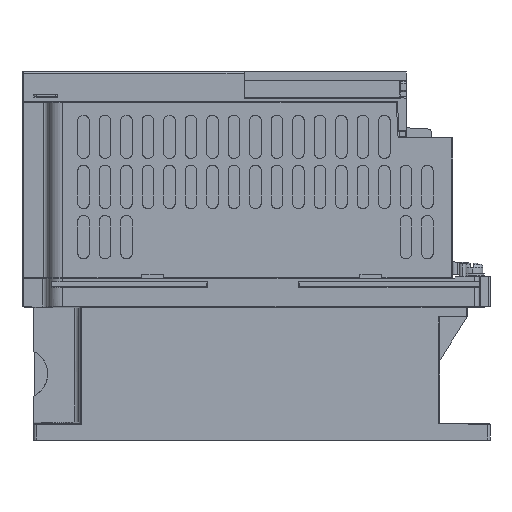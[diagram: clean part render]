
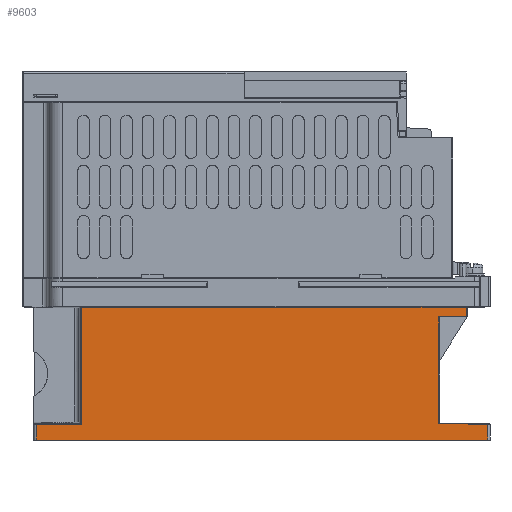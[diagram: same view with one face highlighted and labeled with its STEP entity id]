
A CAD part, left-side view. The second image highlights one B-rep face of the part: STEP entity #9603.
In plain terms, the highlighted planar face has unit normal (-1, 0, 0).
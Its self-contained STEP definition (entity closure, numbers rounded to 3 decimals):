
#5853=PLANE('',#83312);
#9603=ADVANCED_FACE('',(#13789),#5853,.F.);
#13789=FACE_OUTER_BOUND('',#18189,.T.);
#18189=EDGE_LOOP('',(#51324,#51325,#51326,#51327,#51328,#51329,#51330,#51331,
#51332,#51333,#51334));
#25158=LINE('',#120769,#33916);
#25166=LINE('',#120817,#33924);
#25169=LINE('',#120836,#33927);
#25171=LINE('',#120850,#33929);
#25194=LINE('',#120898,#33952);
#25268=LINE('',#122213,#34026);
#25269=LINE('',#122221,#34027);
#25273=LINE('',#122239,#34031);
#25276=LINE('',#122376,#34034);
#25460=LINE('',#123901,#34218);
#25471=LINE('',#123963,#34229);
#33916=VECTOR('',#97524,1.);
#33924=VECTOR('',#97542,1.);
#33927=VECTOR('',#97549,1.);
#33929=VECTOR('',#97553,1.);
#33952=VECTOR('',#97590,1.);
#34026=VECTOR('',#97902,1.);
#34027=VECTOR('',#97913,1.);
#34031=VECTOR('',#97933,1.);
#34034=VECTOR('',#97940,1.);
#34218=VECTOR('',#98336,1.);
#34229=VECTOR('',#98373,1.);
#51324=ORIENTED_EDGE('',*,*,#74323,.T.);
#51325=ORIENTED_EDGE('',*,*,#74351,.T.);
#51326=ORIENTED_EDGE('',*,*,#74327,.T.);
#51327=ORIENTED_EDGE('',*,*,#74806,.T.);
#51328=ORIENTED_EDGE('',*,*,#74827,.F.);
#51329=ORIENTED_EDGE('',*,*,#74305,.T.);
#51330=ORIENTED_EDGE('',*,*,#74534,.F.);
#51331=ORIENTED_EDGE('',*,*,#74528,.T.);
#51332=ORIENTED_EDGE('',*,*,#74519,.F.);
#51333=ORIENTED_EDGE('',*,*,#74515,.F.);
#51334=ORIENTED_EDGE('',*,*,#74317,.F.);
#64778=VERTEX_POINT('',#120746);
#64780=VERTEX_POINT('',#120768);
#64790=VERTEX_POINT('',#120815);
#64792=VERTEX_POINT('',#120818);
#64797=VERTEX_POINT('',#120835);
#64800=VERTEX_POINT('',#120849);
#64801=VERTEX_POINT('',#120851);
#64903=VERTEX_POINT('',#122214);
#64905=VERTEX_POINT('',#122222);
#64911=VERTEX_POINT('',#122240);
#65103=VERTEX_POINT('',#123900);
#74305=EDGE_CURVE('',#64778,#64780,#25158,.T.);
#74317=EDGE_CURVE('',#64790,#64792,#25166,.T.);
#74323=EDGE_CURVE('',#64790,#64797,#25169,.T.);
#74327=EDGE_CURVE('',#64801,#64800,#25171,.T.);
#74351=EDGE_CURVE('',#64797,#64801,#25194,.T.);
#74515=EDGE_CURVE('',#64792,#64903,#25268,.T.);
#74519=EDGE_CURVE('',#64903,#64905,#25269,.T.);
#74528=EDGE_CURVE('',#64911,#64905,#25273,.T.);
#74534=EDGE_CURVE('',#64911,#64780,#25276,.T.);
#74806=EDGE_CURVE('',#64800,#65103,#25460,.T.);
#74827=EDGE_CURVE('',#64778,#65103,#25471,.T.);
#83312=AXIS2_PLACEMENT_3D('',#124746,#98625,#98626);
#97524=DIRECTION('',(0.,0.,-1.));
#97542=DIRECTION('',(0.,-1.,-0.017));
#97549=DIRECTION('',(0.,0.,1.));
#97553=DIRECTION('',(0.,0.,1.));
#97590=DIRECTION('',(0.,-1.,0.017));
#97902=DIRECTION('',(0.,0.,-1.));
#97913=DIRECTION('',(0.,1.,0.));
#97933=DIRECTION('',(0.,0.,-1.));
#97940=DIRECTION('',(0.,-1.,0.));
#98336=DIRECTION('',(0.,-1.,0.017));
#98373=DIRECTION('',(0.,-1.,0.));
#98625=DIRECTION('',(1.,0.,0.));
#98626=DIRECTION('',(0.,-1.,0.));
#120746=CARTESIAN_POINT('',(5.,171.026,55.913));
#120768=CARTESIAN_POINT('',(5.,171.026,6.81));
#120769=CARTESIAN_POINT('',(5.,171.026,55.913));
#120815=CARTESIAN_POINT('',(5.,21.5,7.175));
#120817=CARTESIAN_POINT('',(5.,21.5,7.175));
#120818=CARTESIAN_POINT('',(5.,1.,6.817));
#120835=CARTESIAN_POINT('',(5.,21.5,51.791));
#120836=CARTESIAN_POINT('',(5.,21.5,7.175));
#120849=CARTESIAN_POINT('',(5.,10.,55.825));
#120850=CARTESIAN_POINT('',(5.,10.,52.191));
#120851=CARTESIAN_POINT('',(5.,10.,51.991));
#120898=CARTESIAN_POINT('',(5.,9.5,52.));
#122213=CARTESIAN_POINT('',(5.,1.,6.817));
#122214=CARTESIAN_POINT('',(5.,1.,0.2));
#122221=CARTESIAN_POINT('',(5.,1.,0.2));
#122222=CARTESIAN_POINT('',(5.,190.,0.2));
#122239=CARTESIAN_POINT('',(5.,190.,6.81));
#122240=CARTESIAN_POINT('',(5.,190.,6.81));
#122376=CARTESIAN_POINT('',(5.,190.,6.81));
#123900=CARTESIAN_POINT('',(5.,5.,55.913));
#123901=CARTESIAN_POINT('',(5.,10.,55.825));
#123963=CARTESIAN_POINT('',(5.,171.026,55.913));
#124746=CARTESIAN_POINT('',(5.,196.,0.));
